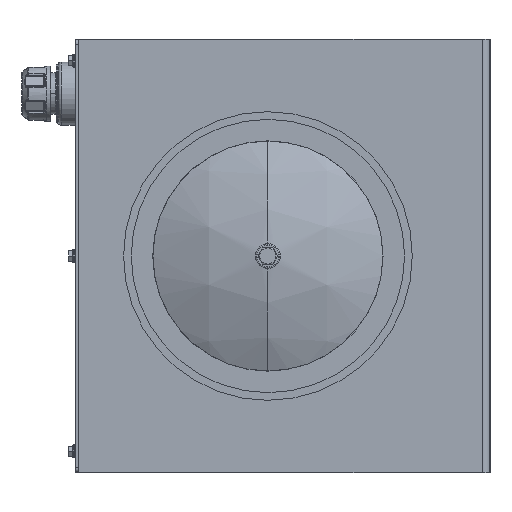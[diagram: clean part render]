
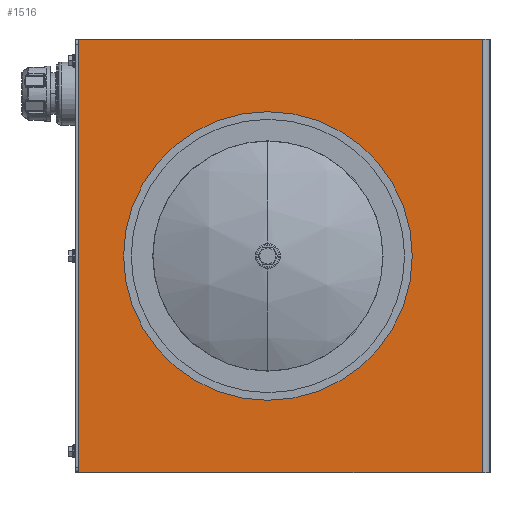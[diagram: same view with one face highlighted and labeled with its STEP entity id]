
A CAD part, left-side view. The second image highlights one B-rep face of the part: STEP entity #1516.
In plain terms, the highlighted planar face has unit normal (-1, 0, 0).
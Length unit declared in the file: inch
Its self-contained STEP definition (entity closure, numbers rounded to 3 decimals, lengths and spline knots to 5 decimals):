
#294 = CARTESIAN_POINT ( 'NONE',  ( -33.47929, 0.08406, 1.27026 ) ) ;
#1516 = ADVANCED_FACE ( 'NONE', ( #19498, #33213 ), #23659, .F. ) ;
#2072 = ORIENTED_EDGE ( 'NONE', *, *, #32061, .T. ) ;
#2592 = CARTESIAN_POINT ( 'NONE',  ( -33.47929, 10.58406, -10.72974 ) ) ;
#2913 = DIRECTION ( 'NONE',  ( 0., 0., 1. ) ) ;
#3104 = EDGE_CURVE ( 'NONE', #31162, #20154, #4183, .T. ) ;
#3764 = CARTESIAN_POINT ( 'NONE',  ( -33.47929, 10.58406, 13.27026 ) ) ;
#3772 = CARTESIAN_POINT ( 'NONE',  ( -33.47929, 10.58406, -10.72974 ) ) ;
#4183 = LINE ( 'NONE', #28269, #10239 ) ;
#4277 = CARTESIAN_POINT ( 'NONE',  ( -33.47929, 0.08406, 7.39526 ) ) ;
#4858 = EDGE_CURVE ( 'NONE', #30277, #19780, #12998, .T. ) ;
#4913 = AXIS2_PLACEMENT_3D ( 'NONE', #26275, #31424, #15990 ) ;
#5322 = VERTEX_POINT ( 'NONE', #30895 ) ;
#6127 = AXIS2_PLACEMENT_3D ( 'NONE', #294, #18378, #2913 ) ;
#7295 = ORIENTED_EDGE ( 'NONE', *, *, #33137, .F. ) ;
#7939 = DIRECTION ( 'NONE',  ( 0., 0., -1. ) ) ;
#9632 = LINE ( 'NONE', #26182, #17287 ) ;
#10239 = VECTOR ( 'NONE', #17863, 39.37008 ) ;
#10475 = VECTOR ( 'NONE', #15890, 39.37008 ) ;
#12059 = DIRECTION ( 'NONE',  ( -1., 0., 0. ) ) ;
#12214 = VERTEX_POINT ( 'NONE', #4277 ) ;
#12975 = ORIENTED_EDGE ( 'NONE', *, *, #16530, .F. ) ;
#12998 = LINE ( 'NONE', #2592, #24271 ) ;
#15045 = EDGE_LOOP ( 'NONE', ( #25498, #25099, #17011, #2072 ) ) ;
#15890 = DIRECTION ( 'NONE',  ( 0., 1., 0. ) ) ;
#15990 = DIRECTION ( 'NONE',  ( 0., 0., -1. ) ) ;
#16530 = EDGE_CURVE ( 'NONE', #5322, #12214, #29119, .T. ) ;
#17011 = ORIENTED_EDGE ( 'NONE', *, *, #4858, .T. ) ;
#17287 = VECTOR ( 'NONE', #31230, 39.37008 ) ;
#17863 = DIRECTION ( 'NONE',  ( 0., 0., 1. ) ) ;
#18123 = LINE ( 'NONE', #31431, #10475 ) ;
#18378 = DIRECTION ( 'NONE',  ( -1., 0., 0. ) ) ;
#19498 = FACE_BOUND ( 'NONE', #22566, .T. ) ;
#19780 = VERTEX_POINT ( 'NONE', #3772 ) ;
#20154 = VERTEX_POINT ( 'NONE', #29135 ) ;
#22566 = EDGE_LOOP ( 'NONE', ( #7295, #12975 ) ) ;
#23659 = PLANE ( 'NONE',  #4913 ) ;
#24271 = VECTOR ( 'NONE', #7939, 39.37008 ) ;
#25099 = ORIENTED_EDGE ( 'NONE', *, *, #31427, .T. ) ;
#25498 = ORIENTED_EDGE ( 'NONE', *, *, #3104, .T. ) ;
#25541 = AXIS2_PLACEMENT_3D ( 'NONE', #27530, #12059, #30089 ) ;
#26182 = CARTESIAN_POINT ( 'NONE',  ( -33.47929, -12.22594, -10.72974 ) ) ;
#26275 = CARTESIAN_POINT ( 'NONE',  ( -33.47929, 10.58406, -10.72974 ) ) ;
#27530 = CARTESIAN_POINT ( 'NONE',  ( -33.47929, 0.08406, 1.27026 ) ) ;
#28269 = CARTESIAN_POINT ( 'NONE',  ( -33.47929, -11.79664, -10.72974 ) ) ;
#29119 = CIRCLE ( 'NONE', #6127, 6.125 ) ;
#29135 = CARTESIAN_POINT ( 'NONE',  ( -33.47929, -11.79664, 13.27026 ) ) ;
#29798 = CIRCLE ( 'NONE', #25541, 6.125 ) ;
#30089 = DIRECTION ( 'NONE',  ( 0., 0., 1. ) ) ;
#30277 = VERTEX_POINT ( 'NONE', #3764 ) ;
#30456 = CARTESIAN_POINT ( 'NONE',  ( -33.47929, -11.79664, -10.72974 ) ) ;
#30895 = CARTESIAN_POINT ( 'NONE',  ( -33.47929, 0.08406, -4.85474 ) ) ;
#31162 = VERTEX_POINT ( 'NONE', #30456 ) ;
#31230 = DIRECTION ( 'NONE',  ( 0., -1., 0. ) ) ;
#31424 = DIRECTION ( 'NONE',  ( 1., 0., 0. ) ) ;
#31427 = EDGE_CURVE ( 'NONE', #20154, #30277, #18123, .T. ) ;
#31431 = CARTESIAN_POINT ( 'NONE',  ( -33.47929, -12.22594, 13.27026 ) ) ;
#32061 = EDGE_CURVE ( 'NONE', #19780, #31162, #9632, .T. ) ;
#33137 = EDGE_CURVE ( 'NONE', #12214, #5322, #29798, .T. ) ;
#33213 = FACE_OUTER_BOUND ( 'NONE', #15045, .T. ) ;
